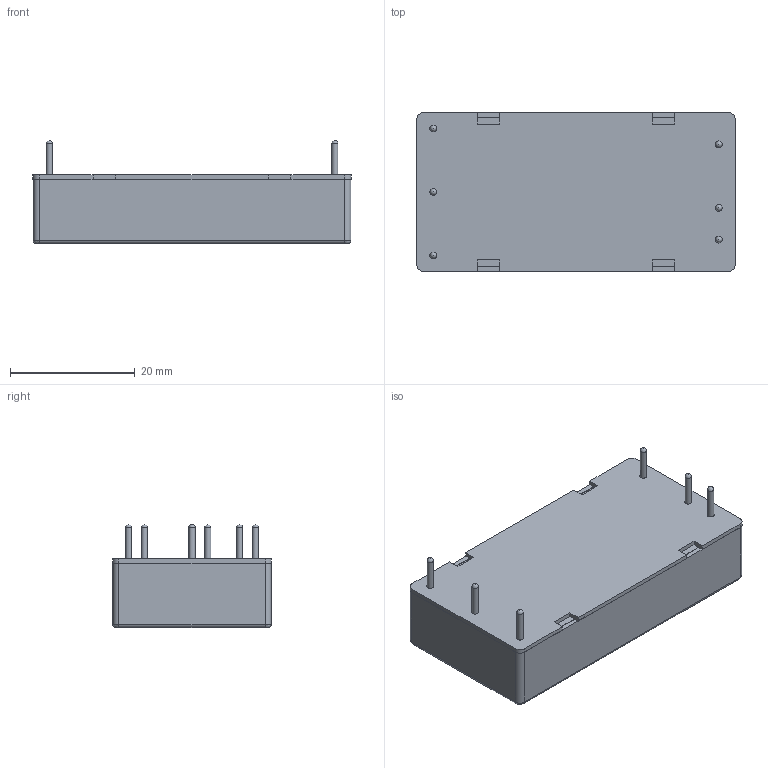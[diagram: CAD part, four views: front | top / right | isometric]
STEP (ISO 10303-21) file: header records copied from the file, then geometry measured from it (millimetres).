
FILE_DESCRIPTION(/* description */ (''),/* implementation_level */ '2;1');
FILE_NAME(/* name */ 'C:\Users\CALLIOPE\Documents\Inventor\專案部\MKWI50(高志明)\3D外觀\型錄用-STEP檔\MKW50+MKWI50+MKW40(24V)+MKWI40(24V)+MKZI10(Type A)+MKZI20(Type A).stp',/* time_stamp */ '2015-03-13T09:35:47+08:00',/* author */ ('CALLIOPE'),/* organization */ (''),/* preprocessor_version */ 'ST-DEVELOPER v15.6',/* originating_system */ 'Autodesk Inventor 2015',/* authorisation */ '');
FILE_SCHEMA (('AUTOMOTIVE_DESIGN { 1 0 10303 214 3 1 1 }'));
Length unit declared in the file: millimetre
Products named in the file (3): MKWI50; MKWI50 PIN; MKW50+MKWI50+MKW40(24V)+MKWI40(24V)+MKZI10(Type A)+MKZI20(Type A)
Assembly tree (2 placements, depth 2):
  MKW50+MKWI50+MKW40(24V)+MKWI40(24V)+MKZI10(Type A)+MKZI20(Type A)
    MKWI50
    MKWI50 PIN
Bounding box: 50.95 x 25.45 x 16.5 mm (x, y, z)
Volume: 3114.5 mm3; surface area: 8266.3 mm2
Topology: 7 solids, 7 shells, 112 faces, 280 edges, 170 vertices
Faces by surface type: plane 66, cylinder 32, sphere 10, bspline 4
Full cylindrical faces by diameter (mm): 1 x6, 1.1 x6
Entity records: 3220 total; most frequent: CARTESIAN_POINT 565, DIRECTION 546, ORIENTED_EDGE 504, EDGE_CURVE 252, LINE 184, VECTOR 184, AXIS2_PLACEMENT_3D 181, VERTEX_POINT 164
